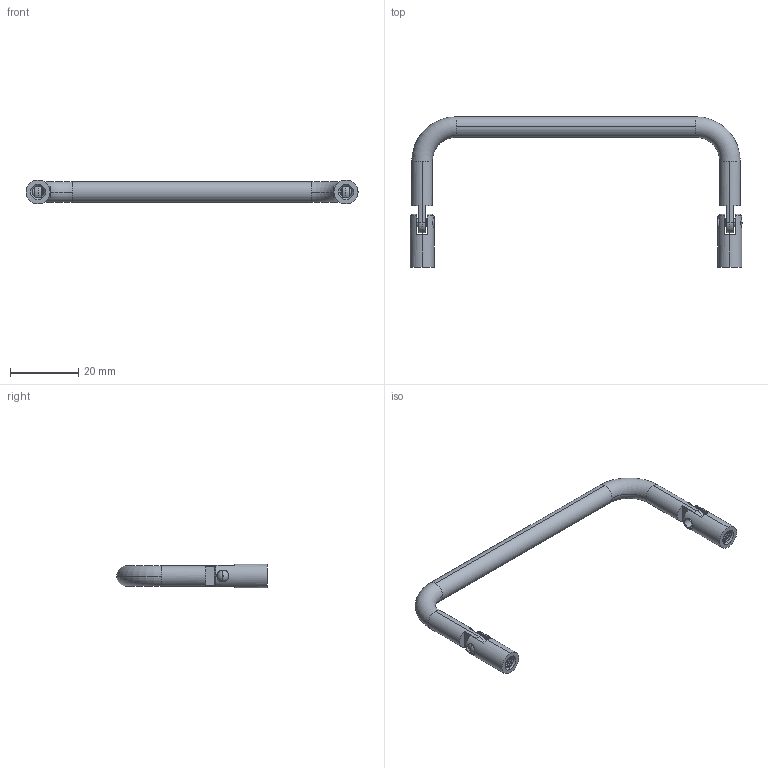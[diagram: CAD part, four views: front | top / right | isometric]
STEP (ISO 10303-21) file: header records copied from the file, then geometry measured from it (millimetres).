
FILE_DESCRIPTION (( 'STEP AP203' ), '1' );
FILE_NAME ('XG01-001-90.STEP', '2023-12-23T02:59:25', ( '' ), ( '' ), 'SwSTEP 2.0', 'SolidWorks 2020', '' );
FILE_SCHEMA (( 'CONFIG_CONTROL_DESIGN' ));
Length unit declared in the file: millimetre
Products named in the file (1): XG01-001-90
Bounding box: 97.03 x 44 x 7 mm (x, y, z)
Volume: 4465.4 mm3; surface area: 4085.8 mm2
Topology: 5 solids, 5 shells, 156 faces, 404 edges, 258 vertices
Faces by surface type: cylinder 86, plane 36, cone 16, torus 8, bspline 6, sphere 4
Entity records: 7797 total; most frequent: CARTESIAN_POINT 4167, ORIENTED_EDGE 808, DIRECTION 706, EDGE_CURVE 404, AXIS2_PLACEMENT_3D 285, VERTEX_POINT 258, EDGE_LOOP 172, ADVANCED_FACE 156
